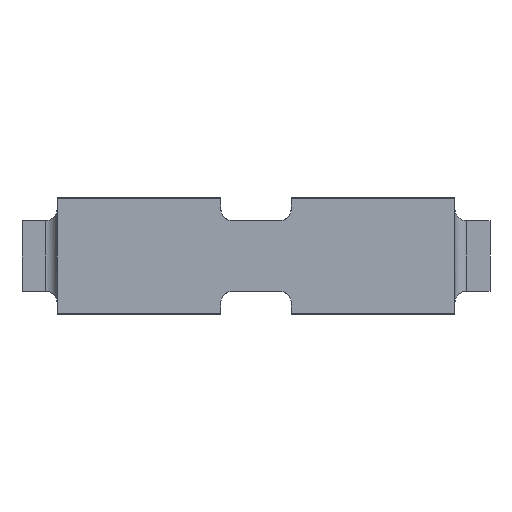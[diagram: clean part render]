
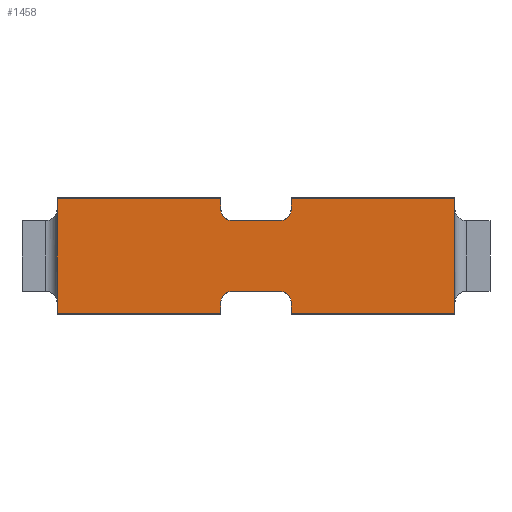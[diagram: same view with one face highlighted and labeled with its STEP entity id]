
A CAD part, left-side view. The second image highlights one B-rep face of the part: STEP entity #1458.
In plain terms, the highlighted planar face has unit normal (-1, 0, 0).
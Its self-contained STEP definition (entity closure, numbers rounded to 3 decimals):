
#50=PLANE('',#1573);
#120=FACE_OUTER_BOUND('',#204,.T.);
#204=EDGE_LOOP('',(#1105,#1106,#1107,#1108,#1109,#1110,#1111,#1112,#1113,
#1114,#1115,#1116,#1117,#1118,#1119,#1120));
#275=LINE('',#2079,#461);
#284=LINE('',#2096,#470);
#288=LINE('',#2106,#474);
#293=LINE('',#2115,#479);
#298=LINE('',#2123,#484);
#309=LINE('',#2149,#495);
#313=LINE('',#2161,#499);
#317=LINE('',#2169,#503);
#318=LINE('',#2172,#504);
#326=LINE('',#2188,#512);
#329=LINE('',#2193,#515);
#330=LINE('',#2194,#516);
#461=VECTOR('',#1674,10.);
#470=VECTOR('',#1685,10.);
#474=VECTOR('',#1691,10.);
#479=VECTOR('',#1698,10.);
#484=VECTOR('',#1709,10.);
#495=VECTOR('',#1732,10.);
#499=VECTOR('',#1746,10.);
#503=VECTOR('',#1752,10.);
#504=VECTOR('',#1755,10.);
#512=VECTOR('',#1765,10.);
#515=VECTOR('',#1770,10.);
#516=VECTOR('',#1771,10.);
#644=CIRCLE('',#1548,0.05);
#646=CIRCLE('',#1551,0.05);
#649=CIRCLE('',#1566,0.05);
#650=CIRCLE('',#1568,0.05);
#657=VERTEX_POINT('',#2063);
#658=VERTEX_POINT('',#2065);
#661=VERTEX_POINT('',#2072);
#662=VERTEX_POINT('',#2074);
#663=VERTEX_POINT('',#2078);
#670=VERTEX_POINT('',#2094);
#674=VERTEX_POINT('',#2103);
#675=VERTEX_POINT('',#2105);
#687=VERTEX_POINT('',#2147);
#688=VERTEX_POINT('',#2151);
#689=VERTEX_POINT('',#2155);
#690=VERTEX_POINT('',#2157);
#693=VERTEX_POINT('',#2167);
#694=VERTEX_POINT('',#2171);
#700=VERTEX_POINT('',#2185);
#701=VERTEX_POINT('',#2187);
#793=EDGE_CURVE('',#658,#657,#644,.T.);
#797=EDGE_CURVE('',#662,#661,#646,.T.);
#799=EDGE_CURVE('',#658,#663,#275,.T.);
#808=EDGE_CURVE('',#670,#661,#284,.T.);
#812=EDGE_CURVE('',#674,#675,#288,.T.);
#817=EDGE_CURVE('',#663,#674,#293,.T.);
#822=EDGE_CURVE('',#675,#670,#298,.T.);
#835=EDGE_CURVE('',#687,#657,#309,.T.);
#837=EDGE_CURVE('',#688,#687,#649,.T.);
#839=EDGE_CURVE('',#689,#690,#650,.T.);
#841=EDGE_CURVE('',#662,#689,#313,.T.);
#845=EDGE_CURVE('',#688,#693,#317,.T.);
#846=EDGE_CURVE('',#694,#690,#318,.T.);
#854=EDGE_CURVE('',#701,#700,#326,.T.);
#857=EDGE_CURVE('',#700,#694,#329,.T.);
#858=EDGE_CURVE('',#693,#701,#330,.T.);
#1105=ORIENTED_EDGE('',*,*,#854,.T.);
#1106=ORIENTED_EDGE('',*,*,#857,.T.);
#1107=ORIENTED_EDGE('',*,*,#846,.T.);
#1108=ORIENTED_EDGE('',*,*,#839,.F.);
#1109=ORIENTED_EDGE('',*,*,#841,.F.);
#1110=ORIENTED_EDGE('',*,*,#797,.T.);
#1111=ORIENTED_EDGE('',*,*,#808,.F.);
#1112=ORIENTED_EDGE('',*,*,#822,.F.);
#1113=ORIENTED_EDGE('',*,*,#812,.F.);
#1114=ORIENTED_EDGE('',*,*,#817,.F.);
#1115=ORIENTED_EDGE('',*,*,#799,.F.);
#1116=ORIENTED_EDGE('',*,*,#793,.T.);
#1117=ORIENTED_EDGE('',*,*,#835,.F.);
#1118=ORIENTED_EDGE('',*,*,#837,.F.);
#1119=ORIENTED_EDGE('',*,*,#845,.T.);
#1120=ORIENTED_EDGE('',*,*,#858,.T.);
#1458=ADVANCED_FACE('',(#120),#50,.T.);
#1548=AXIS2_PLACEMENT_3D('',#2066,#1661,#1662);
#1551=AXIS2_PLACEMENT_3D('',#2075,#1669,#1670);
#1566=AXIS2_PLACEMENT_3D('',#2153,#1736,#1737);
#1568=AXIS2_PLACEMENT_3D('',#2158,#1741,#1742);
#1573=AXIS2_PLACEMENT_3D('',#2192,#1768,#1769);
#1661=DIRECTION('center_axis',(1.,0.,0.));
#1662=DIRECTION('ref_axis',(0.,0.,
-1.));
#1669=DIRECTION('center_axis',(1.,0.,0.));
#1670=DIRECTION('ref_axis',(0.,-1.,0.));
#1674=DIRECTION('',(0.,0.,1.));
#1685=DIRECTION('',(0.,0.,1.));
#1691=DIRECTION('',(0.,0.,-1.));
#1698=DIRECTION('',(0.,-1.,0.));
#1709=DIRECTION('',(0.,1.,0.));
#1732=DIRECTION('',(0.,-1.,0.));
#1736=DIRECTION('center_axis',(-1.,0.,0.));
#1737=DIRECTION('ref_axis',(0.,0.,
-1.));
#1741=DIRECTION('center_axis',(-1.,0.,0.));
#1742=DIRECTION('ref_axis',(0.,1.,0.));
#1746=DIRECTION('',(0.,1.,0.));
#1752=DIRECTION('',(0.,0.,1.));
#1755=DIRECTION('',(0.,0.,1.));
#1765=DIRECTION('',(0.,0.,-1.));
#1768=DIRECTION('center_axis',(-1.,0.,0.));
#1769=DIRECTION('ref_axis',(0.,0.,1.));
#1770=DIRECTION('',(0.,-1.,0.));
#1771=DIRECTION('',(0.,1.,0.));
#2063=CARTESIAN_POINT('',(0.,0.9,0.4));
#2065=CARTESIAN_POINT('',(0.,0.85,0.45));
#2066=CARTESIAN_POINT('Origin',(0.,0.9,
0.45));
#2072=CARTESIAN_POINT('',(0.,0.85,0.05));
#2074=CARTESIAN_POINT('',(0.,0.9,0.1));
#2075=CARTESIAN_POINT('Origin',(0.,0.9,
0.05));
#2078=CARTESIAN_POINT('',(0.,0.85,0.5));
#2079=CARTESIAN_POINT('',(0.,0.85,0.45));
#2094=CARTESIAN_POINT('',(0.,0.85,0.));
#2096=CARTESIAN_POINT('',(0.,0.85,0.));
#2103=CARTESIAN_POINT('',(0.,0.15,0.5));
#2105=CARTESIAN_POINT('',(0.,0.15,0.));
#2106=CARTESIAN_POINT('',(0.,0.15,0.5));
#2115=CARTESIAN_POINT('',(0.,0.85,0.5));
#2123=CARTESIAN_POINT('',(0.,0.15,0.));
#2147=CARTESIAN_POINT('',(0.,1.1,0.4));
#2149=CARTESIAN_POINT('',(0.,1.1,0.4));
#2151=CARTESIAN_POINT('',(0.,1.15,0.45));
#2153=CARTESIAN_POINT('Origin',(0.,1.1,0.45));
#2155=CARTESIAN_POINT('',(0.,1.1,0.1));
#2157=CARTESIAN_POINT('',(0.,1.15,0.05));
#2158=CARTESIAN_POINT('Origin',(0.,1.1,0.05));
#2161=CARTESIAN_POINT('',(0.,0.9,0.1));
#2167=CARTESIAN_POINT('',(0.,1.15,0.5));
#2169=CARTESIAN_POINT('',(0.,1.15,0.45));
#2171=CARTESIAN_POINT('',(0.,1.15,0.));
#2172=CARTESIAN_POINT('',(0.,1.15,0.));
#2185=CARTESIAN_POINT('',(0.,1.85,0.));
#2187=CARTESIAN_POINT('',(0.,1.85,0.5));
#2188=CARTESIAN_POINT('',(0.,1.85,0.5));
#2192=CARTESIAN_POINT('Origin',(0.,1.85,0.25));
#2193=CARTESIAN_POINT('',(0.,1.85,0.));
#2194=CARTESIAN_POINT('',(0.,1.15,0.5));
